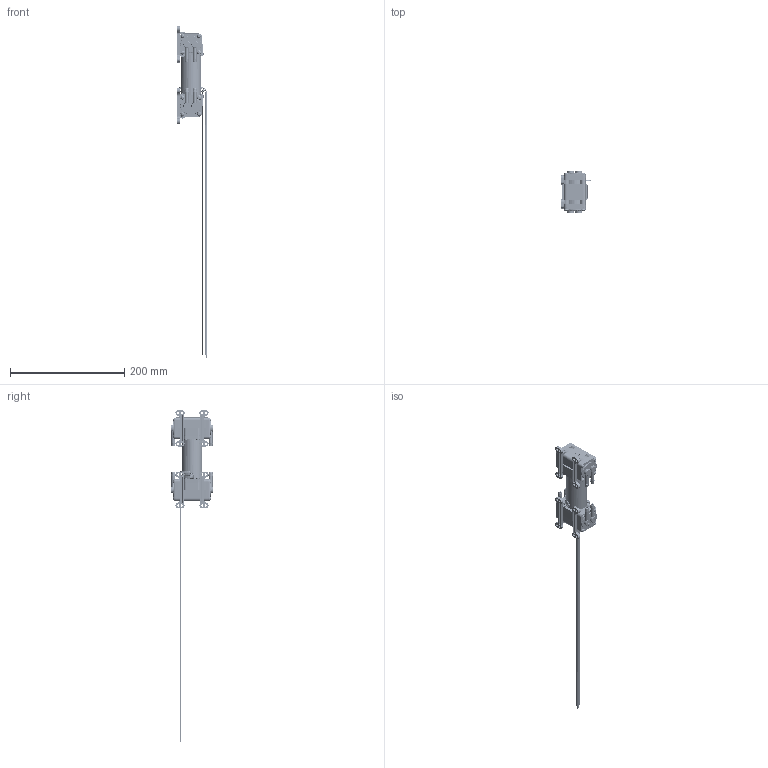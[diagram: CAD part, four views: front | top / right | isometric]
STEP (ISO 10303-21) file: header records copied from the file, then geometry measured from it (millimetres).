
FILE_DESCRIPTION (( 'STEP AP214' ), '1' );
FILE_NAME ('3234.6xx_Rev00_Assy.STEP', '2023-08-01T10:37:58', ( '' ), ( '' ), 'SwSTEP 2.0', 'SolidWorks 2021', '' );
FILE_SCHEMA (( 'AUTOMOTIVE_DESIGN' ));
Length unit declared in the file: millimetre
Products named in the file (1): 3234.6xx_Rev00_Assy
Bounding box: 51.35 x 73.4 x 580.35 mm (x, y, z)
Volume: 119897.4 mm3; surface area: 117792.5 mm2
Topology: 59 solids, 60 shells, 3328 faces, 7817 edges, 4877 vertices
Faces by surface type: cone 1005, cylinder 1001, plane 919, bspline 213, torus 182, sphere 8
Full cylindrical faces by diameter (mm): 0.8 x4, 1.4 x12, 1.5 x1, 2.4 x80, 2.5 x11, 2.8 x8, 3.2 x26, 3.4 x20, 3.5 x8, 3.6 x8, 3.7 x6, 4.2 x48, 6 x1, 6.5 x8, 8 x8, 10 x2, 18 x2, 18.05 x2, 30.336 x8, 32 x1, 36 x2
Entity records: 172864 total; most frequent: CARTESIAN_POINT 66996, ORIENTED_EDGE 13828, DIRECTION 13293, EDGE_CURVE 6914, AXIS2_PLACEMENT_3D 5420, VERTEX_POINT 4626, EDGE_LOOP 4472, FACE_OUTER_BOUND 3675
